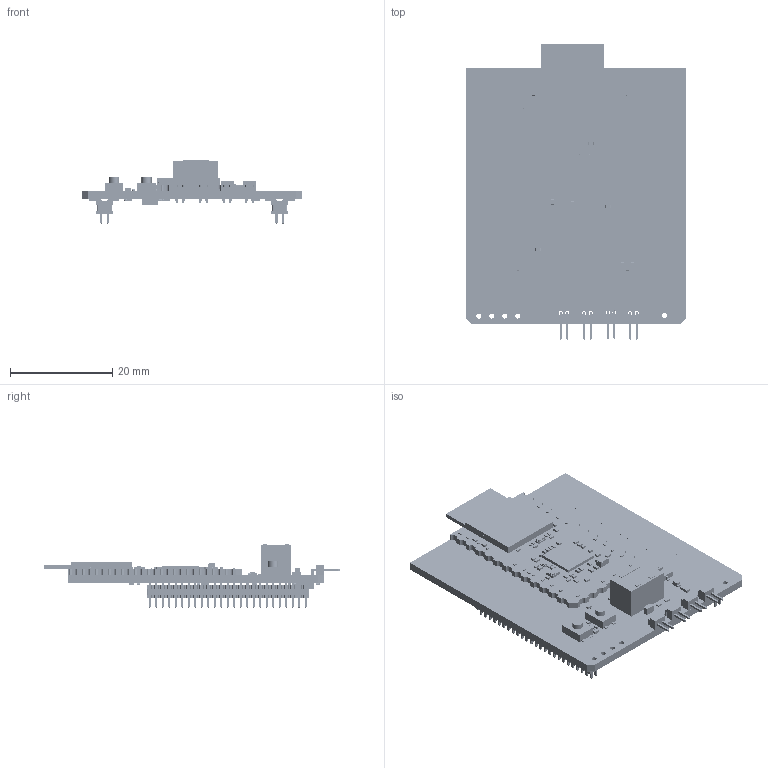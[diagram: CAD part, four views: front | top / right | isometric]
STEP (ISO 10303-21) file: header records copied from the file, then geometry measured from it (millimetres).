
FILE_DESCRIPTION(('Open CASCADE Model'),'2;1');
FILE_NAME('Open CASCADE Shape Model','2025-01-27T08:02:53',('Author'),( 'Open CASCADE'),'Open CASCADE STEP processor 7.5','Open CASCADE 7.5' ,'Unknown');
FILE_SCHEMA(('AUTOMOTIVE_DESIGN { 1 0 10303 214 1 1 1 1 }'));
Length unit declared in the file: millimetre
Products named in the file (236): PCB; Board; Open CASCADE STEP translator 7.5 1.1.1; JP4; 7018210832; Extruded; 7018210672; 7018210352; 7018210112; 7018209872; JP3; JP2; SB14; R0402; 7018201232; SB11; SB8; SB10; HW5; 7018208272; U3; 0201; 7018204432; U2; DFN6-EPAD_3X3_P095; 7018198272; U1; MB2248_3D; Open CASCADE STEP translator 7.5 2.1.1; 6582237296; 6582237136; R33; 6505580704; C46; C0402; R32; res0201-H0P23; 6505569904; R31; R30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
Assembly tree (466 placements, depth 6):
  PCB
    Board
      Open CASCADE STEP translator 7.5 1.1.1
    JP4
      7018210832  x2
        Extruded
      7018210672  x2
        Extruded
      7018210352  x2
        Extruded
      7018210112  x2
        Extruded
      7018209872
        Extruded
    JP3
      7018210832  x2
        Extruded
      7018210672  x2
        Extruded
      7018210352  x2
        Extruded
      7018210112  x2
        Extruded
      7018209872
        Extruded
    JP2
      7018210832  x2
        Extruded
      7018210672  x2
        Extruded
      7018210352  x2
        Extruded
      7018210112  x2
        Extruded
      7018209872
        Extruded
    SB14
      R0402
      7018201232
        Extruded
    SB11
      R0402
      7018201232
        Extruded
    SB8
      R0402
      7018201232
        Extruded
    SB10
      R0402
      7018201232
        Extruded
    HW5
      7018208272
        Extruded
    U3
      0201
      7018204432
        Extruded
    U2
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Bounding box: 43 x 57.87 x 12.54 mm (x, y, z)
Volume: 5705.9 mm3; surface area: 11692 mm2
Topology: 561 solids, 567 shells, 17984 faces, 42519 edges, 24997 vertices
Faces by surface type: plane 9101, cylinder 4323, bspline 2686, sphere 1288, revolution 368, torus 216, cone 2
Full cylindrical faces by diameter (mm): 0.2 x1, 0.6 x1, 0.8 x8, 0.889 x2, 1 x7
Entity records: 153263 total; most frequent: CARTESIAN_POINT 39715, ORIENTED_EDGE 20256, DIRECTION 19059, EDGE_CURVE 10129, LINE 8385, VECTOR 8385, VERTEX_POINT 6449, AXIS2_PLACEMENT_3D 5329
